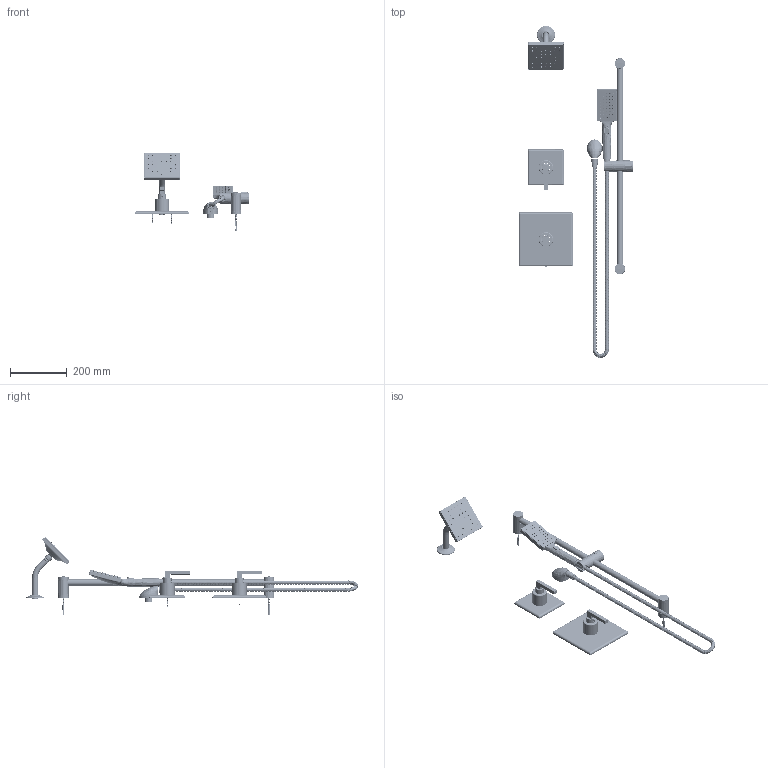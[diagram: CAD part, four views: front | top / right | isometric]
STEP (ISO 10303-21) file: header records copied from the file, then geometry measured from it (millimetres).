
FILE_DESCRIPTION (( 'STEP AP214' ), '1' );
FILE_NAME ('3695TRM.STEP', '2025-01-15T11:51:39', ( '' ), ( '' ), 'SwSTEP 2.0', 'SolidWorks 2023', '' );
FILE_SCHEMA (( 'AUTOMOTIVE_DESIGN' ));
Products named in the file (1): 3695TRM
Bounding box: 402.68 x 1171.01 x 277.54 mm (x, y, z)
Surface area: 564163.7 mm2 (no closed solid volume)
Topology: 0 solids, 256 shells, 2023 faces, 7029 edges, 5148 vertices
Faces by surface type: cylinder 841, plane 495, bspline 318, cone 253, torus 104, sphere 12
Entity records: 510061 total; most frequent: CARTESIAN_POINT 456453, ORIENTED_EDGE 10786, DIRECTION 9070, EDGE_CURVE 7005, VERTEX_POINT 5145, AXIS2_PLACEMENT_3D 3315, B_SPLINE_CURVE_WITH_KNOTS 2727, EDGE_LOOP 2445
